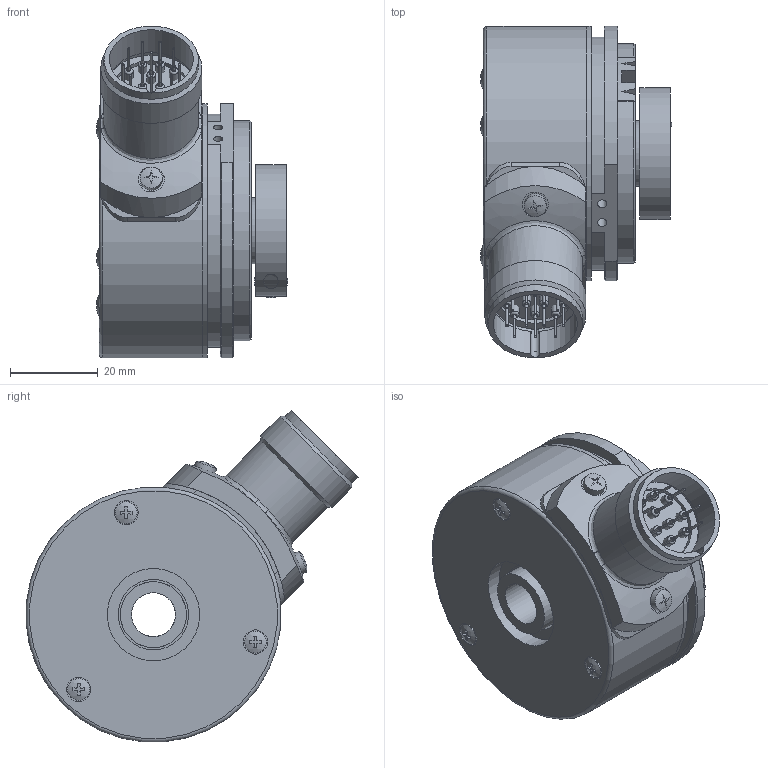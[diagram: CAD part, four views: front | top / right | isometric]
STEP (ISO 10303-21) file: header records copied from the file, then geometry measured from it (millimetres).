
FILE_DESCRIPTION (( 'STEP AP203' ), '1' );
FILE_NAME ('8.5825.15X2.XXXX.STEP', '2013-04-25T08:28:06', ( 'Hodot' ), ( '' ), 'SwSTEP 2.0', 'SolidWorks 2012', '' );
FILE_SCHEMA (( 'CONFIG_CONTROL_DESIGN' ));
Length unit declared in the file: millimetre
Products named in the file (1): 8.5825.15X2.XXXX
Bounding box: 43.48 x 75.46 x 75.4 mm (x, y, z)
Volume: 57857.4 mm3; surface area: 44246.3 mm2
Topology: 31 solids, 31 shells, 636 faces, 1354 edges, 853 vertices
Faces by surface type: plane 276, cylinder 232, cone 74, torus 31, sphere 19, bspline 4
Full cylindrical faces by diameter (mm): 0.5 x12, 0.6 x12, 1.1 x12, 1.2 x12, 1.4 x12, 2 x38, 2.05 x13, 2.5 x21, 2.6 x3, 3.2 x2, 3.3 x1, 4 x1, 4.3 x1, 4.7 x1, 5 x5, 5.5 x3, 6 x2, 7 x1, 10 x1, 10.5 x1, 15 x2, 16 x1, 16.1 x1, 16.247 x1, 16.5 x1, 16.8 x2, 17 x1, 17.5 x1, 17.7 x1, 18 x1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
Entity records: 17145 total; most frequent: CARTESIAN_POINT 4440, DIRECTION 2754, ORIENTED_EDGE 2028, AXIS2_PLACEMENT_3D 1196, EDGE_LOOP 1064, EDGE_CURVE 1014, FACE_OUTER_BOUND 842, VERTEX_POINT 808
